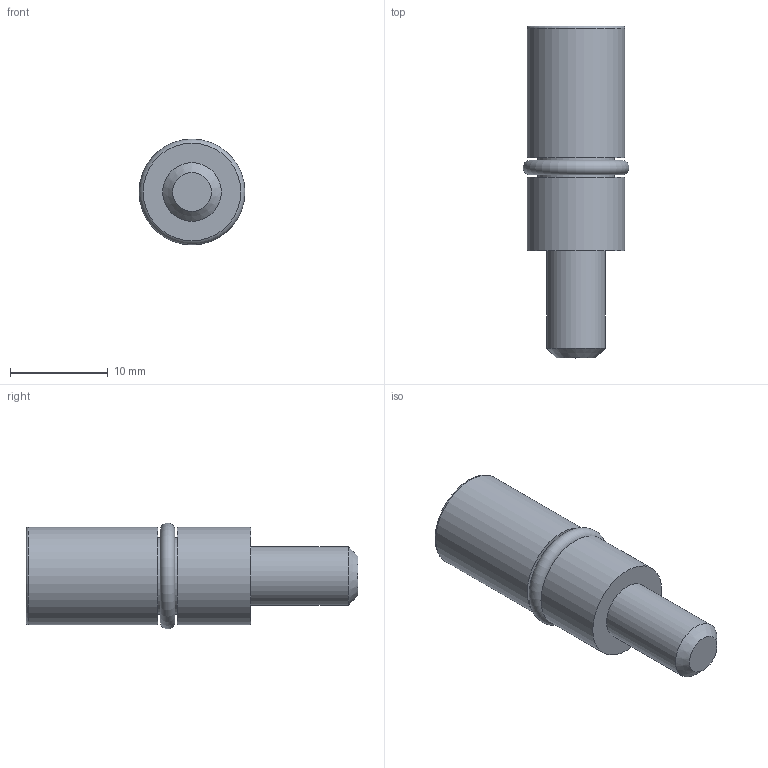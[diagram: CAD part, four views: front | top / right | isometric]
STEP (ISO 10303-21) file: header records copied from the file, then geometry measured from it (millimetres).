
FILE_DESCRIPTION (( 'STEP AP214' ), '1' );
FILE_NAME ('F11303.step', '2024-12-03T16:14:47', ( '' ), ( '' ), 'SwSTEP 2.0', 'SolidWorks 2023', '' );
FILE_SCHEMA (( 'AUTOMOTIVE_DESIGN' ));
Length unit declared in the file: millimetre
Products named in the file (1): F11303
Bounding box: 10.85 x 34 x 10.85 mm (x, y, z)
Volume: 1992 mm3; surface area: 1343 mm2
Topology: 2 solids, 2 shells, 19 faces, 36 edges, 23 vertices
Faces by surface type: plane 12, cylinder 4, torus 2, cone 1
Full cylindrical faces by diameter (mm): 6 x1, 7.85 x1, 10 x2
Entity records: 464 total; most frequent: DIRECTION 78, CARTESIAN_POINT 70, ORIENTED_EDGE 56, AXIS2_PLACEMENT_3D 30, EDGE_CURVE 28, EDGE_LOOP 28, FACE_OUTER_BOUND 23, VERTEX_POINT 22
